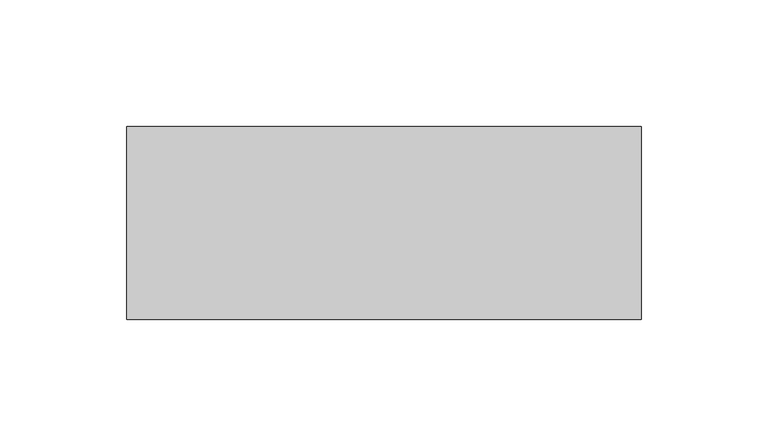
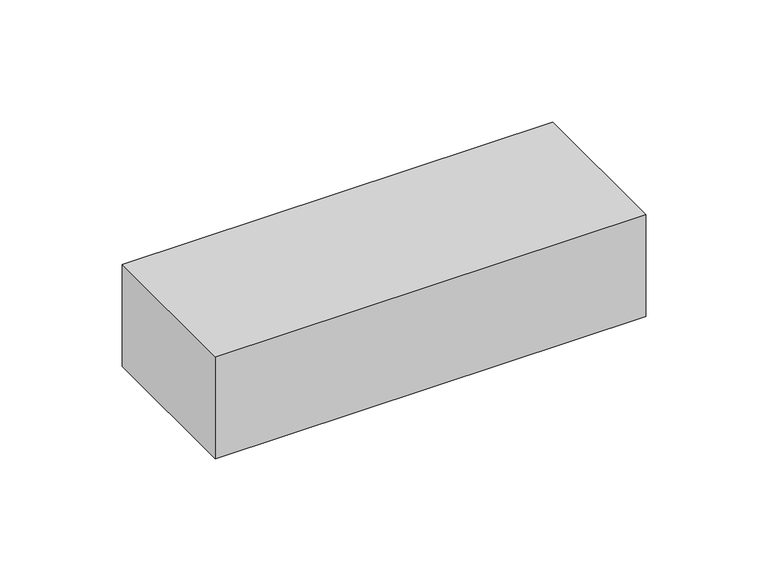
"""IFC4 building model written with IfcOpenShell, lengths in millimetres: proxy geometry, Wall  Protrusion : Wall  Protrusion."""

import ifcopenshell
import ifcopenshell.guid

model = None  # the IFC model being written
_history = None  # IfcOwnerHistory: only IFC2X3 demands one
_inside = {}  # id of a spatial element -> (the spatial element, [elements in it])
_under = {}  # id of a project, library or spatial element -> (it, [spatial elements below it])
_declared = {}  # id of a project -> (the project, [libraries it declares])
_typed = {}  # id of a type object -> (the type object, [elements of that type])
_made_of = {}  # id of a material, layer set ... -> (it, [elements and type objects made of it])


def new_model(schema):
    """Start an empty IFC model of exactly this schema.

    Asked for "IFC4X3", IfcOpenShell would pick the latest addendum, in which some entities
    have other attributes; the version numbers below select the first issue.
    IFC2X3 requires an IfcOwnerHistory on every rooted entity: one is made here for all.
    """
    global model, _history
    if schema == "IFC4X3":
        model = ifcopenshell.file(schema_version=(4, 3, 0, 0))
    else:
        model = ifcopenshell.file(schema=schema)
    _inside.clear()
    _under.clear()
    _declared.clear()
    _typed.clear()
    _made_of.clear()
    _history = None
    if model.schema == "IFC2X3":
        org = make("IfcOrganization", Name="unknown")
        user = make(
            "IfcPersonAndOrganization",
            ThePerson=make("IfcPerson", FamilyName="unknown"),
            TheOrganization=org,
        )
        app = make(
            "IfcApplication",
            ApplicationDeveloper=org,
            Version="unknown",
            ApplicationFullName="unknown",
            ApplicationIdentifier="unknown",
        )
        _history = make(
            "IfcOwnerHistory",
            OwningUser=user,
            OwningApplication=app,
            ChangeAction="ADDED",
            CreationDate=0,
        )
    return model


def make(cls, **values):
    """One entity of the class cls with the attributes given. An attribute that is None is left unset."""
    return model.create_entity(
        cls, **{name: value for name, value in values.items() if value is not None}
    )


def rooted(cls, **values):
    """An entity with a GlobalId (a new one), such as an element, a storey or a relation."""
    return make(cls, GlobalId=ifcopenshell.guid.new(), OwnerHistory=_history, **values)


def si_unit(unit_type, name, prefix=None):
    """IfcSIUnit, for example si_unit("LENGTHUNIT", "METRE", prefix="MILLI")."""
    return make("IfcSIUnit", UnitType=unit_type, Prefix=prefix, Name=name)


def assignment(units):
    """IfcUnitAssignment: the units of a project."""
    return None if units is None else make("IfcUnitAssignment", Units=units)


def point(xyz):
    """IfcCartesianPoint."""
    return None if xyz is None else make("IfcCartesianPoint", Coordinates=xyz)


def direction(xyz):
    """IfcDirection."""
    return None if xyz is None else make("IfcDirection", DirectionRatios=xyz)


def frame(location, z_axis=None, x_axis=None):
    """IfcAxis2Placement3D, a coordinate frame: its origin and axes. An axis left out is left unset."""
    return make(
        "IfcAxis2Placement3D",
        Location=point(location),
        Axis=direction(z_axis),
        RefDirection=direction(x_axis),
    )


def origin():
    """The frame at (0, 0, 0) with its axes left unset."""
    return frame((0.0, 0.0, 0.0))


def origin_with_axes():
    """The frame at (0, 0, 0) with the z axis (0, 0, 1) and the x axis (1, 0, 0) written out."""
    return frame((0.0, 0.0, 0.0), z_axis=(0.0, 0.0, 1.0), x_axis=(1.0, 0.0, 0.0))


def place(relative_to, where):
    """IfcLocalPlacement: puts the frame where relative to a parent placement (None: the world)."""
    return make(
        "IfcLocalPlacement", PlacementRelTo=relative_to, RelativePlacement=where
    )


def context(
    kind, dimensions, precision=None, world=None, true_north=None, identifier=None
):
    """IfcGeometricRepresentationContext, for example the 3D "Model" context."""
    return make(
        "IfcGeometricRepresentationContext",
        ContextIdentifier=identifier,
        ContextType=kind,
        CoordinateSpaceDimension=dimensions,
        Precision=precision,
        WorldCoordinateSystem=world,
        TrueNorth=true_north,
    )


def project(units=None, contexts=None):
    """IfcProject with its units and contexts."""
    return rooted(
        "IfcProject",
        Name="project",
        RepresentationContexts=contexts,
        UnitsInContext=assignment(units),
    )


def spatial(cls, under=None, at=None, **own):
    """A site, building, storey or space (cls), placed at a placement, below another one or the project."""
    s = rooted(cls, ObjectPlacement=at, **own)
    if under is not None:
        _under.setdefault(under.id(), (under, []))[1].append(s)
    return s


def polyline(points):
    """IfcPolyline through the points."""
    return make("IfcPolyline", Points=[point(p) for p in points])


def outline(outer, holes=None, kind="AREA"):
    """IfcArbitraryClosedProfileDef: a profile drawn as a closed curve; with holes, ...WithVoids."""
    if holes is None:
        return make("IfcArbitraryClosedProfileDef", ProfileType=kind, OuterCurve=outer)
    return make(
        "IfcArbitraryProfileDefWithVoids",
        ProfileType=kind,
        OuterCurve=outer,
        InnerCurves=holes,
    )


def extrude(swept, where, along, depth):
    """IfcExtrudedAreaSolid: the profile swept, set in the frame where, extruded along a direction by depth."""
    return make(
        "IfcExtrudedAreaSolid",
        SweptArea=swept,
        Position=where,
        ExtrudedDirection=direction(along),
        Depth=depth,
    )


def shape(context_of_items, identifier, shape_type, items):
    """IfcShapeRepresentation: the items that make up one representation, for example the "Body"."""
    return make(
        "IfcShapeRepresentation",
        ContextOfItems=context_of_items,
        RepresentationIdentifier=identifier,
        RepresentationType=shape_type,
        Items=items,
    )


def source(mapping_origin, context_of_items, identifier, shape_type, items):
    """IfcRepresentationMap: a shape defined once, which mapped items show again and again."""
    return make(
        "IfcRepresentationMap",
        MappingOrigin=mapping_origin,
        MappedRepresentation=shape(context_of_items, identifier, shape_type, items),
    )


def transform(
    local_origin,
    x_axis=None,
    y_axis=None,
    z_axis=None,
    scale=None,
    scale2=None,
    scale3=None,
    uniform=True,
):
    """IfcCartesianTransformationOperator3D, or its non-uniform kind. x_axis, y_axis, z_axis: its Axis1, 2, 3."""
    if uniform:
        return make(
            "IfcCartesianTransformationOperator3D",
            Axis1=direction(x_axis),
            Axis2=direction(y_axis),
            LocalOrigin=point(local_origin),
            Scale=scale,
            Axis3=direction(z_axis),
        )
    return make(
        "IfcCartesianTransformationOperator3DnonUniform",
        Axis1=direction(x_axis),
        Axis2=direction(y_axis),
        LocalOrigin=point(local_origin),
        Scale=scale,
        Axis3=direction(z_axis),
        Scale2=scale2,
        Scale3=scale3,
    )


def mapped(mapping_source, mapping_target):
    """IfcMappedItem: shows the shape of a source again, moved by a transform."""
    return make(
        "IfcMappedItem", MappingSource=mapping_source, MappingTarget=mapping_target
    )


def made_of(thing, what):
    """Note that an element or type object is made of a material, layer set ...; save() writes the relation."""
    if what is not None:
        _made_of.setdefault(what.id(), (what, []))[1].append(thing)
    return thing


def element(
    cls,
    number,
    at=None,
    inside=None,
    cuts=None,
    type_object=None,
    material=None,
    context=None,
    identifier="Body",
    shape_type=None,
    held_by="IfcProductDefinitionShape",
    body=None,
    shapes=None,
    **own,
):
    """One element of the class cls, such as IfcWall. Its Tag is "e" and its number.

    at: its placement. inside: the storey or other place that contains it. cuts: it is an
    opening in that element (IfcRelVoidsElement). A single representation is given by context,
    identifier, shape_type and body (its items); several are given by shapes. held_by: the class
    of the entity that holds the representations. save() writes the other relations.
    """
    e = rooted(cls, Tag="e%d" % number, ObjectPlacement=at, **own)
    if body is not None:
        shapes = [shape(context, identifier, shape_type, body)]
    if shapes is not None:
        e.Representation = make(held_by, Representations=shapes)
    if inside is not None:
        _inside.setdefault(inside.id(), (inside, []))[1].append(e)
    if cuts is not None:
        rooted(
            "IfcRelVoidsElement", RelatingBuildingElement=cuts, RelatedOpeningElement=e
        )
    if type_object is not None:
        _typed.setdefault(type_object.id(), (type_object, []))[1].append(e)
    return made_of(e, material)


def aggregate(whole, parts):
    """IfcRelAggregates: a whole, such as a stair, and the parts it consists of."""
    return rooted("IfcRelAggregates", RelatingObject=whole, RelatedObjects=parts)


def save(model, path):
    """Write the relations noted so far, then the file.

    IfcRelAggregates (storeys below a building ...), IfcRelContainedInSpatialStructure (elements
    in a storey), IfcRelDefinesByType, IfcRelAssociatesMaterial and IfcRelDeclares: one each for
    every whole, place, type object, material and project.
    """
    for whole, parts in _under.values():
        aggregate(whole, parts)
    for where, things in _inside.values():
        rooted(
            "IfcRelContainedInSpatialStructure",
            RelatedElements=things,
            RelatingStructure=where,
        )
    for kind, things in _typed.values():
        rooted("IfcRelDefinesByType", RelatedObjects=things, RelatingType=kind)
    for what, things in _made_of.values():
        rooted("IfcRelAssociatesMaterial", RelatedObjects=things, RelatingMaterial=what)
    for by, libraries in _declared.values():
        rooted("IfcRelDeclares", RelatingContext=by, RelatedDefinitions=libraries)
    model.write(path)


def generic_models_1db58095(model_context):
    return source(origin(), model_context, "Body", "SweptSolid", [
        extrude(outline(polyline([(101.6, 38.1), (101.6, -38.1), (-101.6, -38.1), (-101.6, 38.1), (101.6, 38.1)])), origin_with_axes(), (0.0, 0.0, 1.0), 50.8),
    ])


if __name__ == "__main__":
    model = new_model("IFC4")
    model_context = context("Model", 3, world=origin())
    ifc_project = project(units=[si_unit("LENGTHUNIT", "METRE", prefix="MILLI")], contexts=[model_context])
    site = spatial("IfcSite", under=ifc_project)
    building = spatial("IfcBuilding", under=site)
    placement = place(None, origin())
    generic_models_shape = generic_models_1db58095(model_context)
    element("IfcBuildingElementProxy", 1, Name="Wall  Protrusion : Wall  Protrusion", ObjectType="Wall  Protrusion : Wall  Protrusion", at=placement, inside=building, context=model_context, shape_type="MappedRepresentation", body=[
        mapped(generic_models_shape, transform((0.0, 0.0, 0.0), x_axis=(1.0, 0.0, 0.0), y_axis=(0.0, 1.0, 0.0), z_axis=(0.0, 0.0, 1.0))),
    ])
    save(model, "model.ifc")
